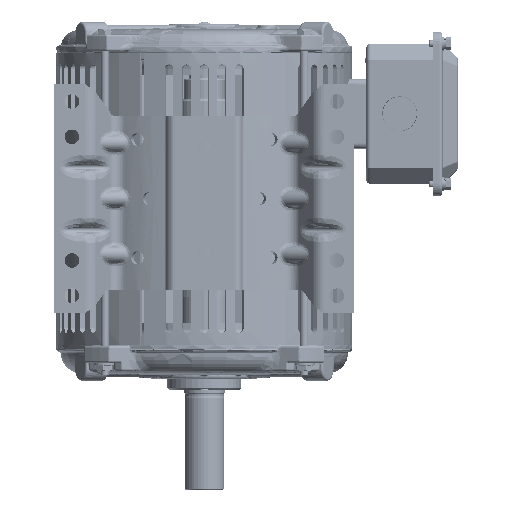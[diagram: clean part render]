
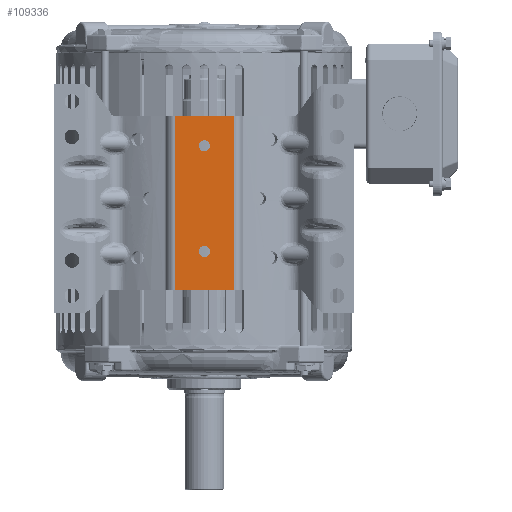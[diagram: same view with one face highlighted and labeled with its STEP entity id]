
A CAD part, front view. The second image highlights one B-rep face of the part: STEP entity #109336.
In plain terms, the highlighted planar face has unit normal (0, -1, 0).
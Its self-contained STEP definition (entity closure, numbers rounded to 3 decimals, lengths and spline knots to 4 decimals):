
#1781 = LINE ( 'NONE', #248771, #61881 ) ;
#7770 = VERTEX_POINT ( 'NONE', #81056 ) ;
#9407 = CIRCLE ( 'NONE', #142332, 0.1575 ) ;
#27503 = ORIENTED_EDGE ( 'NONE', *, *, #251254, .F. ) ;
#29218 = AXIS2_PLACEMENT_3D ( 'NONE', #129168, #193166, #59304 ) ;
#30146 = LINE ( 'NONE', #87126, #209921 ) ;
#35906 = VERTEX_POINT ( 'NONE', #105458 ) ;
#36324 = FACE_BOUND ( 'NONE', #131989, .T. ) ;
#44295 = CARTESIAN_POINT ( 'NONE',  ( 0., -4.4213, -5.689 ) ) ;
#50065 = EDGE_CURVE ( 'NONE', #35906, #267696, #291381, .T. ) ;
#53469 = ORIENTED_EDGE ( 'NONE', *, *, #89921, .T. ) ;
#56725 = CARTESIAN_POINT ( 'NONE',  ( 0., -4.4213, -2.6969 ) ) ;
#56733 = CARTESIAN_POINT ( 'NONE',  ( 0., -4.4213, -5.8465 ) ) ;
#59304 = DIRECTION ( 'NONE',  ( 0., 0., -1. ) ) ;
#61881 = VECTOR ( 'NONE', #113912, 39.3701 ) ;
#67007 = CIRCLE ( 'NONE', #97145, 0.1575 ) ;
#74677 = CARTESIAN_POINT ( 'NONE',  ( 0.8404, -4.4213, -1.8484 ) ) ;
#75560 = ORIENTED_EDGE ( 'NONE', *, *, #182360, .T. ) ;
#76625 = DIRECTION ( 'NONE',  ( -1., 0., 0. ) ) ;
#81056 = CARTESIAN_POINT ( 'NONE',  ( -0.8404, -4.4213, -1.8484 ) ) ;
#87126 = CARTESIAN_POINT ( 'NONE',  ( 0.8404, -4.4213, -0.9429 ) ) ;
#87370 = CARTESIAN_POINT ( 'NONE',  ( 0., -4.4213, -2.6969 ) ) ;
#89055 = DIRECTION ( 'NONE',  ( 0., 0., -1. ) ) ;
#89921 = EDGE_CURVE ( 'NONE', #268315, #7770, #164478, .T. ) ;
#92598 = FACE_OUTER_BOUND ( 'NONE', #235442, .T. ) ;
#95230 = DIRECTION ( 'NONE',  ( 0., 0., -1. ) ) ;
#97145 = AXIS2_PLACEMENT_3D ( 'NONE', #56725, #170879, #123702 ) ;
#105458 = CARTESIAN_POINT ( 'NONE',  ( 0., -4.4213, -5.5315 ) ) ;
#109336 = ADVANCED_FACE ( 'NONE', ( #36324, #276054, #92598 ), #217714, .T. ) ;
#109887 = VECTOR ( 'NONE', #291096, 39.3701 ) ;
#111101 = CARTESIAN_POINT ( 'NONE',  ( 0.8404, -4.4213, -6.7736 ) ) ;
#112273 = DIRECTION ( 'NONE',  ( 0., 0., -1. ) ) ;
#113912 = DIRECTION ( 'NONE',  ( 0., 0., -1. ) ) ;
#120199 = AXIS2_PLACEMENT_3D ( 'NONE', #87370, #266569, #244845 ) ;
#123702 = DIRECTION ( 'NONE',  ( 0., 0., -1. ) ) ;
#129168 = CARTESIAN_POINT ( 'NONE',  ( 0.8404, -4.4213, -0.9429 ) ) ;
#131989 = EDGE_LOOP ( 'NONE', ( #156899, #27503 ) ) ;
#132940 = ORIENTED_EDGE ( 'NONE', *, *, #268023, .F. ) ;
#142332 = AXIS2_PLACEMENT_3D ( 'NONE', #44295, #269834, #112273 ) ;
#156899 = ORIENTED_EDGE ( 'NONE', *, *, #50065, .F. ) ;
#164478 = LINE ( 'NONE', #74677, #213933 ) ;
#170879 = DIRECTION ( 'NONE',  ( 0., -1., 0. ) ) ;
#173405 = AXIS2_PLACEMENT_3D ( 'NONE', #211326, #252755, #95230 ) ;
#178267 = VERTEX_POINT ( 'NONE', #286946 ) ;
#179659 = CARTESIAN_POINT ( 'NONE',  ( 0.8404, -4.4213, -6.7736 ) ) ;
#182360 = EDGE_CURVE ( 'NONE', #225493, #258558, #282533, .T. ) ;
#189307 = EDGE_LOOP ( 'NONE', ( #225457, #291858 ) ) ;
#193166 = DIRECTION ( 'NONE',  ( 0., -1., 0. ) ) ;
#196798 = EDGE_CURVE ( 'NONE', #286918, #178267, #232052, .T. ) ;
#207929 = EDGE_CURVE ( 'NONE', #7770, #225493, #1781, .T. ) ;
#209921 = VECTOR ( 'NONE', #89055, 39.3701 ) ;
#211326 = CARTESIAN_POINT ( 'NONE',  ( 0., -4.4213, -5.689 ) ) ;
#213933 = VECTOR ( 'NONE', #76625, 39.3701 ) ;
#217714 = PLANE ( 'NONE',  #29218 ) ;
#225457 = ORIENTED_EDGE ( 'NONE', *, *, #196798, .F. ) ;
#225493 = VERTEX_POINT ( 'NONE', #247644 ) ;
#232052 = CIRCLE ( 'NONE', #120199, 0.1575 ) ;
#235442 = EDGE_LOOP ( 'NONE', ( #256305, #75560, #132940, #53469 ) ) ;
#237860 = CARTESIAN_POINT ( 'NONE',  ( 0., -4.4213, -2.5394 ) ) ;
#244845 = DIRECTION ( 'NONE',  ( 0., 0., -1. ) ) ;
#247644 = CARTESIAN_POINT ( 'NONE',  ( -0.8404, -4.4213, -6.7736 ) ) ;
#248771 = CARTESIAN_POINT ( 'NONE',  ( -0.8404, -4.4213, -0.9429 ) ) ;
#251254 = EDGE_CURVE ( 'NONE', #267696, #35906, #9407, .T. ) ;
#252755 = DIRECTION ( 'NONE',  ( 0., -1., 0. ) ) ;
#256305 = ORIENTED_EDGE ( 'NONE', *, *, #207929, .T. ) ;
#258558 = VERTEX_POINT ( 'NONE', #111101 ) ;
#261539 = EDGE_CURVE ( 'NONE', #178267, #286918, #67007, .T. ) ;
#266569 = DIRECTION ( 'NONE',  ( 0., -1., 0. ) ) ;
#267696 = VERTEX_POINT ( 'NONE', #56733 ) ;
#268023 = EDGE_CURVE ( 'NONE', #268315, #258558, #30146, .T. ) ;
#268315 = VERTEX_POINT ( 'NONE', #288316 ) ;
#269834 = DIRECTION ( 'NONE',  ( 0., -1., 0. ) ) ;
#276054 = FACE_BOUND ( 'NONE', #189307, .T. ) ;
#282533 = LINE ( 'NONE', #179659, #109887 ) ;
#286918 = VERTEX_POINT ( 'NONE', #237860 ) ;
#286946 = CARTESIAN_POINT ( 'NONE',  ( 0., -4.4213, -2.8543 ) ) ;
#288316 = CARTESIAN_POINT ( 'NONE',  ( 0.8404, -4.4213, -1.8484 ) ) ;
#291096 = DIRECTION ( 'NONE',  ( 1., 0., 0. ) ) ;
#291381 = CIRCLE ( 'NONE', #173405, 0.1575 ) ;
#291858 = ORIENTED_EDGE ( 'NONE', *, *, #261539, .F. ) ;
